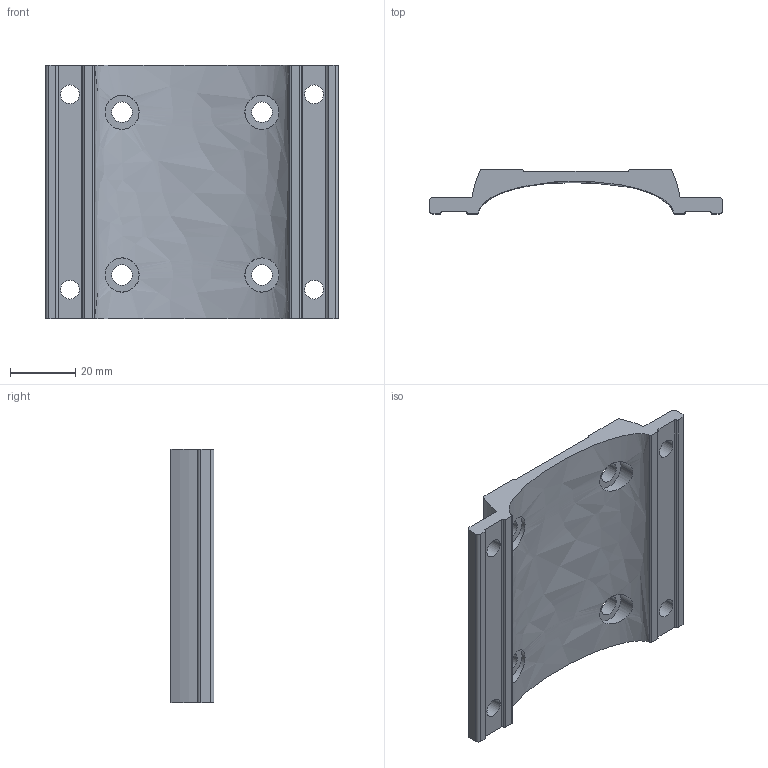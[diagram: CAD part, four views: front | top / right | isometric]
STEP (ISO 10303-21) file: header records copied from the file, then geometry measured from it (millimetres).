
FILE_DESCRIPTION (( 'STEP AP214' ), '1' );
FILE_NAME ('Fuß 2243202.STEP', '2017-08-25T06:13:05', ( 'gfeller' ), ( '' ), 'SwSTEP 2.0', 'SolidWorks 2017', '' );
FILE_SCHEMA (( 'AUTOMOTIVE_DESIGN' ));
Length unit declared in the file: millimetre
Products named in the file (1): Fuﾟ 2243202
Bounding box: 90 x 13.5 x 78 mm (x, y, z)
Volume: 35068.1 mm3; surface area: 17806.5 mm2
Topology: 1 solids, 1 shells, 66 faces, 180 edges, 120 vertices
Faces by surface type: cylinder 44, plane 21, bspline 1
Entity records: 2485 total; most frequent: CARTESIAN_POINT 688, DIRECTION 382, ORIENTED_EDGE 360, EDGE_CURVE 180, AXIS2_PLACEMENT_3D 146, VERTEX_POINT 120, LINE 90, VECTOR 90
